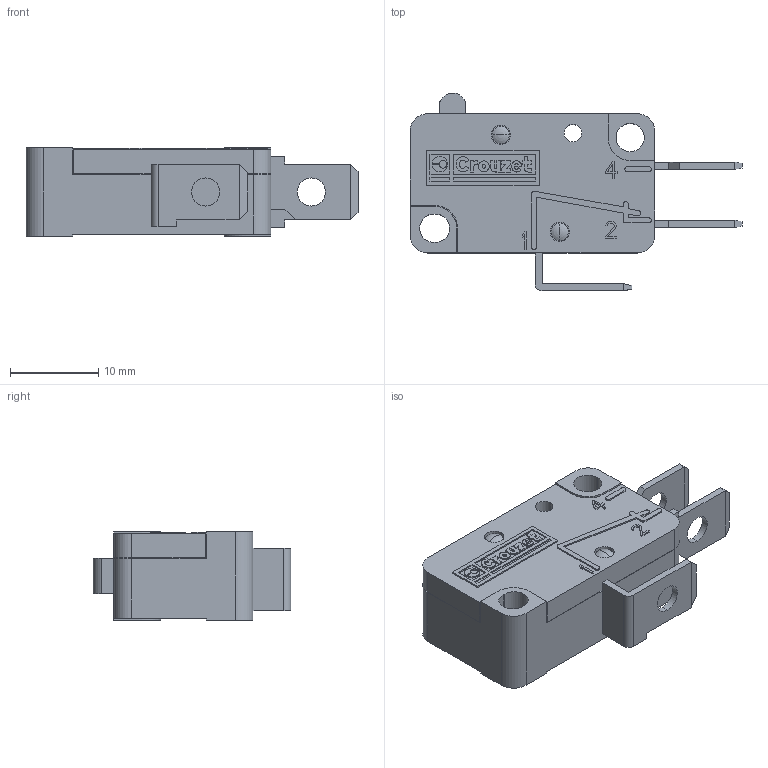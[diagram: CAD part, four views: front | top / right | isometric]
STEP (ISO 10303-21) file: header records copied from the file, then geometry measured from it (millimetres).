
FILE_DESCRIPTION((''),'2;1');
FILE_NAME('83160006','2009-12-01T',('VALFVE1'),('CROUZET-AUTOMATISMES'),'PRO/ENGINEER BY PARAMETRIC TECHNOLOGY CORPORATION, 2007250','PRO/ENGINEER BY PARAMETRIC TECHNOLOGY CORPORATION, 2007250','');
FILE_SCHEMA(('CONFIG_CONTROL_DESIGN'));
Length unit declared in the file: millimetre
Products named in the file (1): 83160006
Bounding box: 37.7 x 22.45 x 10 mm (x, y, z)
Surface area: 3353.5 mm2 (no closed solid volume)
Topology: 0 solids, 3 shells, 333 faces, 888 edges, 582 vertices
Faces by surface type: plane 238, cylinder 91, sphere 4
Entity records: 10342 total; most frequent: CARTESIAN_POINT 1799, ORIENTED_EDGE 1768, DIRECTION 1736, EDGE_CURVE 884, VECTOR 698, LINE 698, VERTEX_POINT 582, AXIS2_PLACEMENT_3D 519
